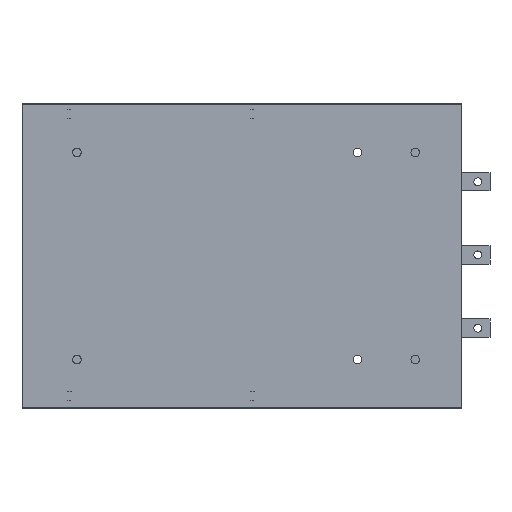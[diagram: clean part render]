
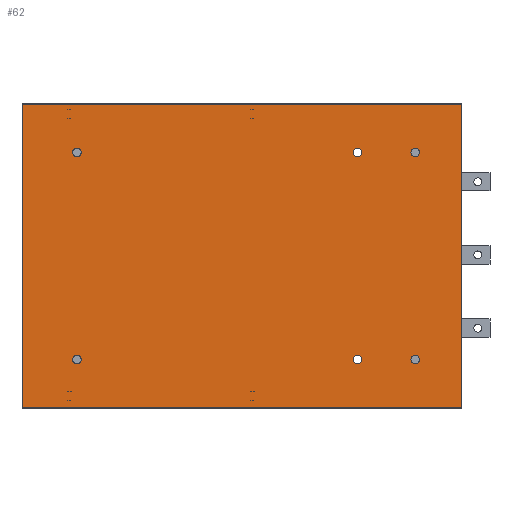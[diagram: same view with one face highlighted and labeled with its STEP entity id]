
A CAD part, front view. The second image highlights one B-rep face of the part: STEP entity #62.
In plain terms, the highlighted planar face has unit normal (0, -1, 0).
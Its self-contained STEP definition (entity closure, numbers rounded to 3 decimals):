
#62=ADVANCED_FACE('',(#437,#439,#441,#443,#445,#447,#449),#451,.T.);
#437=FACE_BOUND('',#438,.T.);
#438=EDGE_LOOP('',(#3184,#3185,#3186,#3187));
#439=FACE_BOUND('',#440,.T.);
#440=EDGE_LOOP('',(#3188));
#441=FACE_BOUND('',#442,.T.);
#442=EDGE_LOOP('',(#3189));
#443=FACE_BOUND('',#444,.T.);
#444=EDGE_LOOP('',(#3190));
#445=FACE_BOUND('',#446,.T.);
#446=EDGE_LOOP('',(#3191));
#447=FACE_BOUND('',#448,.T.);
#448=EDGE_LOOP('',(#3192));
#449=FACE_BOUND('',#450,.T.);
#450=EDGE_LOOP('',(#3193));
#451=PLANE('',#452);
#452=AXIS2_PLACEMENT_3D('',#453,#454,#455);
#453=CARTESIAN_POINT('',(603.8,-71.,-19.955));
#454=DIRECTION('',(0.,-1.,0.));
#455=DIRECTION('',(0.,0.,1.));
#3184=ORIENTED_EDGE('',*,*,#5280,.T.);
#3185=ORIENTED_EDGE('',*,*,#5281,.F.);
#3186=ORIENTED_EDGE('',*,*,#5282,.F.);
#3187=ORIENTED_EDGE('',*,*,#5283,.T.);
#3188=ORIENTED_EDGE('',*,*,#5284,.T.);
#3189=ORIENTED_EDGE('',*,*,#5285,.T.);
#3190=ORIENTED_EDGE('',*,*,#5286,.T.);
#3191=ORIENTED_EDGE('',*,*,#5287,.T.);
#3192=ORIENTED_EDGE('',*,*,#5288,.T.);
#3193=ORIENTED_EDGE('',*,*,#5289,.T.);
#5280=EDGE_CURVE('',#6289,#6290,#6291,.T.);
#5281=EDGE_CURVE('',#6292,#6290,#6293,.T.);
#5282=EDGE_CURVE('',#6294,#6292,#6295,.T.);
#5283=EDGE_CURVE('',#6294,#6289,#6296,.T.);
#5284=EDGE_CURVE('',#6297,#6297,#6298,.F.);
#5285=EDGE_CURVE('',#6299,#6299,#6300,.F.);
#5286=EDGE_CURVE('',#6301,#6301,#6302,.F.);
#5287=EDGE_CURVE('',#6303,#6303,#6304,.F.);
#5288=EDGE_CURVE('',#6305,#6305,#6306,.F.);
#5289=EDGE_CURVE('',#6307,#6307,#6308,.F.);
#6289=VERTEX_POINT('',#7974);
#6290=VERTEX_POINT('',#7975);
#6291=LINE('',#7976,#7977);
#6292=VERTEX_POINT('',#7979);
#6293=LINE('',#7980,#7981);
#6294=VERTEX_POINT('',#7983);
#6295=LINE('',#7984,#7985);
#6296=LINE('',#7987,#7988);
#6297=VERTEX_POINT('',#7990);
#6298=CIRCLE('',#7991,7.);
#6299=VERTEX_POINT('',#7995);
#6300=CIRCLE('',#7996,7.);
#6301=VERTEX_POINT('',#8000);
#6302=CIRCLE('',#8001,7.);
#6303=VERTEX_POINT('',#8005);
#6304=CIRCLE('',#8006,7.);
#6305=VERTEX_POINT('',#8010);
#6306=CIRCLE('',#8011,7.);
#6307=VERTEX_POINT('',#8015);
#6308=CIRCLE('',#8016,7.);
#7974=CARTESIAN_POINT('',(714.283,-71.,476.463));
#7975=CARTESIAN_POINT('',(-6.2,-71.,476.463));
#7976=CARTESIAN_POINT('',(714.283,-71.,476.463));
#7977=VECTOR('',#7978,1.);
#7978=DIRECTION('',(-1.,0.,0.));
#7979=CARTESIAN_POINT('',(-6.2,-71.,-19.955));
#7980=CARTESIAN_POINT('',(-6.2,-71.,-19.955));
#7981=VECTOR('',#7982,1.);
#7982=DIRECTION('',(0.,0.,1.));
#7983=CARTESIAN_POINT('',(714.283,-71.,-19.955));
#7984=CARTESIAN_POINT('',(714.283,-71.,-19.955));
#7985=VECTOR('',#7986,1.);
#7986=DIRECTION('',(-1.,0.,0.));
#7987=CARTESIAN_POINT('',(714.283,-71.,-19.955));
#7988=VECTOR('',#7989,1.);
#7989=DIRECTION('',(0.,0.,1.));
#7990=CARTESIAN_POINT('',(90.8,-71.,398.254));
#7991=AXIS2_PLACEMENT_3D('',#7992,#7993,#7994);
#7992=CARTESIAN_POINT('',(83.8,-71.,398.254));
#7993=DIRECTION('',(0.,-1.,0.));
#7994=DIRECTION('',(1.,0.,0.));
#7995=CARTESIAN_POINT('',(550.8,-71.,398.254));
#7996=AXIS2_PLACEMENT_3D('',#7997,#7998,#7999);
#7997=CARTESIAN_POINT('',(543.8,-71.,398.254));
#7998=DIRECTION('',(0.,-1.,0.));
#7999=DIRECTION('',(1.,0.,0.));
#8000=CARTESIAN_POINT('',(645.8,-71.,398.254));
#8001=AXIS2_PLACEMENT_3D('',#8002,#8003,#8004);
#8002=CARTESIAN_POINT('',(638.8,-71.,398.254));
#8003=DIRECTION('',(0.,-1.,0.));
#8004=DIRECTION('',(1.,0.,0.));
#8005=CARTESIAN_POINT('',(90.8,-71.,58.254));
#8006=AXIS2_PLACEMENT_3D('',#8007,#8008,#8009);
#8007=CARTESIAN_POINT('',(83.8,-71.,58.254));
#8008=DIRECTION('',(0.,-1.,0.));
#8009=DIRECTION('',(1.,0.,0.));
#8010=CARTESIAN_POINT('',(550.8,-71.,58.254));
#8011=AXIS2_PLACEMENT_3D('',#8012,#8013,#8014);
#8012=CARTESIAN_POINT('',(543.8,-71.,58.254));
#8013=DIRECTION('',(0.,-1.,0.));
#8014=DIRECTION('',(1.,0.,0.));
#8015=CARTESIAN_POINT('',(645.8,-71.,58.254));
#8016=AXIS2_PLACEMENT_3D('',#8017,#8018,#8019);
#8017=CARTESIAN_POINT('',(638.8,-71.,58.254));
#8018=DIRECTION('',(0.,-1.,0.));
#8019=DIRECTION('',(1.,0.,0.));
